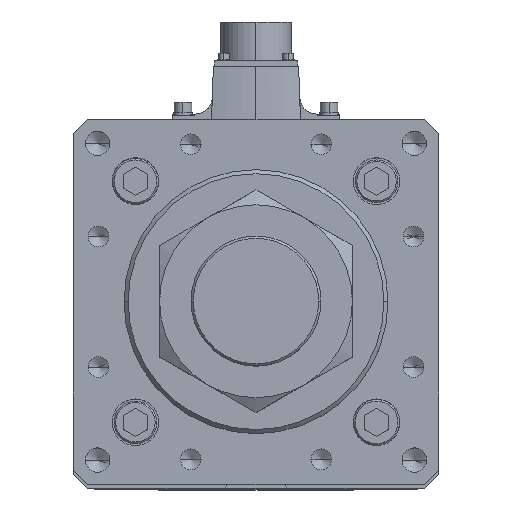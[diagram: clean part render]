
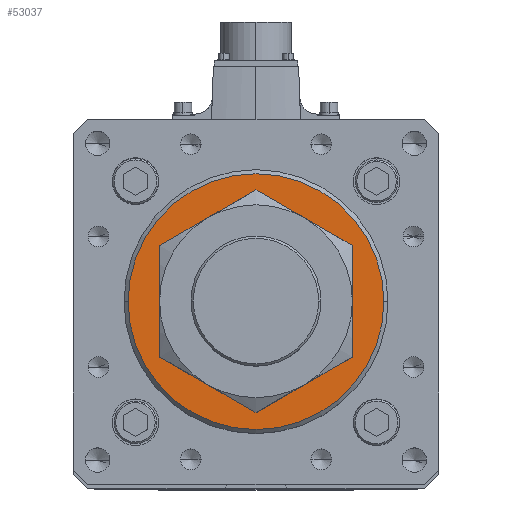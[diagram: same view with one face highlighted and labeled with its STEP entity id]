
A CAD part, top view. The second image highlights one B-rep face of the part: STEP entity #53037.
In plain terms, the highlighted planar face has unit normal (0, 0, 1).
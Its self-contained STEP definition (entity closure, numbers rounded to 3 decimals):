
#810 = DIRECTION ( 'NONE',  ( 1., 0., 0. ) ) ;
#913 = CIRCLE ( 'NONE', #23016, 40.5 ) ;
#1571 = FACE_OUTER_BOUND ( 'NONE', #32452, .T. ) ;
#2360 = CARTESIAN_POINT ( 'NONE',  ( -63., 0., 1162. ) ) ;
#3326 = CARTESIAN_POINT ( 'NONE',  ( 0., 0., 1162. ) ) ;
#3340 = CARTESIAN_POINT ( 'NONE',  ( 0., 0., 1162. ) ) ;
#7402 = DIRECTION ( 'NONE',  ( 1., 0., 0. ) ) ;
#9660 = ORIENTED_EDGE ( 'NONE', *, *, #35584, .T. ) ;
#9781 = CARTESIAN_POINT ( 'NONE',  ( -40.5, 0., 1162. ) ) ;
#12321 = CIRCLE ( 'NONE', #36785, 63. ) ;
#14748 = EDGE_CURVE ( 'NONE', #46493, #43485, #26527, .T. ) ;
#15622 = AXIS2_PLACEMENT_3D ( 'NONE', #3340, #37143, #29412 ) ;
#18578 = VERTEX_POINT ( 'NONE', #23292 ) ;
#18603 = DIRECTION ( 'NONE',  ( 1., 0., 0. ) ) ;
#20491 = CARTESIAN_POINT ( 'NONE',  ( 0., 0., 1162. ) ) ;
#20738 = EDGE_CURVE ( 'NONE', #37089, #18578, #44819, .T. ) ;
#22193 = AXIS2_PLACEMENT_3D ( 'NONE', #26708, #39078, #810 ) ;
#22974 = EDGE_CURVE ( 'NONE', #18578, #37089, #913, .T. ) ;
#23016 = AXIS2_PLACEMENT_3D ( 'NONE', #20491, #28853, #33133 ) ;
#23292 = CARTESIAN_POINT ( 'NONE',  ( 40.5, 0., 1162. ) ) ;
#24586 = DIRECTION ( 'NONE',  ( 0., 0., 1. ) ) ;
#25224 = CARTESIAN_POINT ( 'NONE',  ( 63., 0., 1162. ) ) ;
#26268 = ORIENTED_EDGE ( 'NONE', *, *, #14748, .T. ) ;
#26527 = CIRCLE ( 'NONE', #49522, 63. ) ;
#26708 = CARTESIAN_POINT ( 'NONE',  ( 0., 0., 1162. ) ) ;
#28853 = DIRECTION ( 'NONE',  ( 0., 0., -1. ) ) ;
#29412 = DIRECTION ( 'NONE',  ( 1., 0., 0. ) ) ;
#30267 = ORIENTED_EDGE ( 'NONE', *, *, #20738, .T. ) ;
#30932 = EDGE_LOOP ( 'NONE', ( #34661, #30267 ) ) ;
#31452 = DIRECTION ( 'NONE',  ( 0., 0., 1. ) ) ;
#31585 = FACE_BOUND ( 'NONE', #30932, .T. ) ;
#32452 = EDGE_LOOP ( 'NONE', ( #9660, #26268 ) ) ;
#33133 = DIRECTION ( 'NONE',  ( 1., 0., 0. ) ) ;
#34661 = ORIENTED_EDGE ( 'NONE', *, *, #22974, .T. ) ;
#35584 = EDGE_CURVE ( 'NONE', #43485, #46493, #12321, .T. ) ;
#36785 = AXIS2_PLACEMENT_3D ( 'NONE', #3326, #24586, #7402 ) ;
#37089 = VERTEX_POINT ( 'NONE', #9781 ) ;
#37143 = DIRECTION ( 'NONE',  ( 0., 0., 1. ) ) ;
#39078 = DIRECTION ( 'NONE',  ( 0., 0., -1. ) ) ;
#43485 = VERTEX_POINT ( 'NONE', #2360 ) ;
#44819 = CIRCLE ( 'NONE', #22193, 40.5 ) ;
#46493 = VERTEX_POINT ( 'NONE', #25224 ) ;
#49522 = AXIS2_PLACEMENT_3D ( 'NONE', #52937, #31452, #18603 ) ;
#52937 = CARTESIAN_POINT ( 'NONE',  ( 0., 0., 1162. ) ) ;
#53037 = ADVANCED_FACE ( 'NONE', ( #31585, #1571 ), #54809, .T. ) ;
#54809 = PLANE ( 'NONE',  #15622 ) ;
